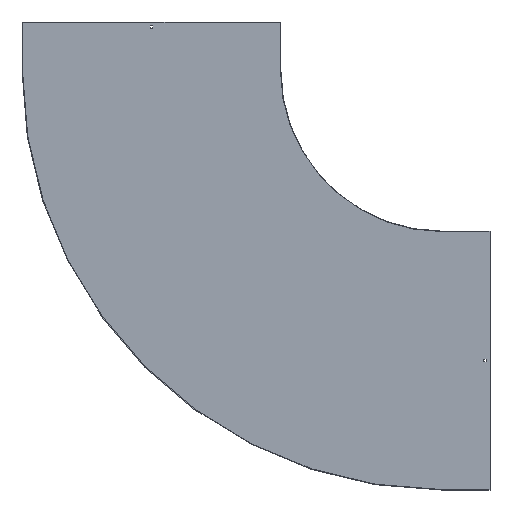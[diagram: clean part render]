
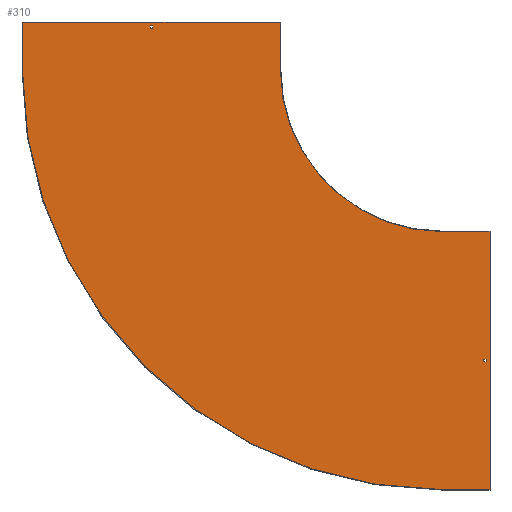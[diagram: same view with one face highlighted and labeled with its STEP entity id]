
A CAD part, front view. The second image highlights one B-rep face of the part: STEP entity #310.
In plain terms, the highlighted planar face has unit normal (0, -1, 0).
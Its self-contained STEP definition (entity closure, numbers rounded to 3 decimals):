
#1 = DIRECTION ( 'NONE',  ( 1., 0., 0. ) ) ;
#4 = VERTEX_POINT ( 'NONE', #264 ) ;
#10 = VECTOR ( 'NONE', #138, 1000. ) ;
#14 = CARTESIAN_POINT ( 'NONE',  ( 129., -1.5, -896.75 ) ) ;
#20 = CARTESIAN_POINT ( 'NONE',  ( 129., -1.5, -903.25 ) ) ;
#21 = LINE ( 'NONE', #411, #221 ) ;
#28 = VECTOR ( 'NONE', #618, 1000. ) ;
#36 = CARTESIAN_POINT ( 'NONE',  ( 0., -1.5, -903.25 ) ) ;
#37 = CARTESIAN_POINT ( 'NONE',  ( 0., -1.5, -500. ) ) ;
#49 = VERTEX_POINT ( 'NONE', #20 ) ;
#52 = VERTEX_POINT ( 'NONE', #326 ) ;
#68 = ORIENTED_EDGE ( 'NONE', *, *, #444, .F. ) ;
#85 = DIRECTION ( 'NONE',  ( 0., 1., 0. ) ) ;
#89 = CARTESIAN_POINT ( 'NONE',  ( -500., -1.5, 150. ) ) ;
#105 = VECTOR ( 'NONE', #839, 1000. ) ;
#111 = DIRECTION ( 'NONE',  ( -1., 0., 0. ) ) ;
#124 = DIRECTION ( 'NONE',  ( 1., 0., 0. ) ) ;
#129 = CARTESIAN_POINT ( 'NONE',  ( 150., -1.5, -498.5 ) ) ;
#135 = ORIENTED_EDGE ( 'NONE', *, *, #726, .T. ) ;
#138 = DIRECTION ( 'NONE',  ( 0., 0., -1. ) ) ;
#151 = LINE ( 'NONE', #646, #518 ) ;
#152 = VERTEX_POINT ( 'NONE', #467 ) ;
#158 = VERTEX_POINT ( 'NONE', #270 ) ;
#160 = EDGE_CURVE ( 'NONE', #175, #832, #820, .T. ) ;
#162 = LINE ( 'NONE', #89, #28 ) ;
#165 = DIRECTION ( 'NONE',  ( 0., 0., -1. ) ) ;
#169 = ORIENTED_EDGE ( 'NONE', *, *, #177, .F. ) ;
#171 = ORIENTED_EDGE ( 'NONE', *, *, #776, .F. ) ;
#172 = LINE ( 'NONE', #711, #191 ) ;
#175 = VERTEX_POINT ( 'NONE', #748 ) ;
#177 = EDGE_CURVE ( 'NONE', #674, #652, #151, .T. ) ;
#181 = CARTESIAN_POINT ( 'NONE',  ( 0., -1.5, 138. ) ) ;
#183 = ORIENTED_EDGE ( 'NONE', *, *, #766, .F. ) ;
#186 = ORIENTED_EDGE ( 'NONE', *, *, #788, .F. ) ;
#188 = EDGE_CURVE ( 'NONE', #755, #306, #568, .T. ) ;
#191 = VECTOR ( 'NONE', #437, 1000. ) ;
#192 = VECTOR ( 'NONE', #225, 1000. ) ;
#216 = DIRECTION ( 'NONE',  ( -1., 0., 0. ) ) ;
#217 = EDGE_LOOP ( 'NONE', ( #135, #660, #250, #828 ) ) ;
#220 = DIRECTION ( 'NONE',  ( 0., 0., -1. ) ) ;
#221 = VECTOR ( 'NONE', #681, 1000. ) ;
#225 = DIRECTION ( 'NONE',  ( 1., 0., 0. ) ) ;
#233 = CARTESIAN_POINT ( 'NONE',  ( 150., -1.5, -500. ) ) ;
#235 = FACE_OUTER_BOUND ( 'NONE', #236, .T. ) ;
#236 = EDGE_LOOP ( 'NONE', ( #408, #845, #432, #169, #68, #802, #549, #186 ) ) ;
#241 = EDGE_CURVE ( 'NONE', #832, #703, #339, .T. ) ;
#250 = ORIENTED_EDGE ( 'NONE', *, *, #656, .T. ) ;
#262 = EDGE_CURVE ( 'NONE', #152, #353, #381, .T. ) ;
#264 = CARTESIAN_POINT ( 'NONE',  ( -896.75, -1.5, 129. ) ) ;
#268 = VECTOR ( 'NONE', #847, 1000. ) ;
#270 = CARTESIAN_POINT ( 'NONE',  ( -500., -1.5, 150. ) ) ;
#276 = CARTESIAN_POINT ( 'NONE',  ( -1300., -1.5, 150. ) ) ;
#281 = CARTESIAN_POINT ( 'NONE',  ( -896.75, -1.5, 138. ) ) ;
#284 = AXIS2_PLACEMENT_3D ( 'NONE', #500, #771, #165 ) ;
#297 = PLANE ( 'NONE',  #284 ) ;
#306 = VERTEX_POINT ( 'NONE', #542 ) ;
#307 = VERTEX_POINT ( 'NONE', #281 ) ;
#310 = ADVANCED_FACE ( 'NONE', ( #844, #235, #819 ), #297, .T. ) ;
#311 = CARTESIAN_POINT ( 'NONE',  ( -903.25, -1.5, 0. ) ) ;
#323 = AXIS2_PLACEMENT_3D ( 'NONE', #342, #85, #668 ) ;
#326 = CARTESIAN_POINT ( 'NONE',  ( -1300., -1.5, 0. ) ) ;
#332 = AXIS2_PLACEMENT_3D ( 'NONE', #530, #611, #220 ) ;
#339 = LINE ( 'NONE', #810, #743 ) ;
#342 = CARTESIAN_POINT ( 'NONE',  ( 0., -1.5, 0. ) ) ;
#348 = LINE ( 'NONE', #751, #384 ) ;
#352 = CARTESIAN_POINT ( 'NONE',  ( -903.25, -1.5, 129. ) ) ;
#353 = VERTEX_POINT ( 'NONE', #557 ) ;
#357 = EDGE_CURVE ( 'NONE', #505, #49, #427, .T. ) ;
#359 = LINE ( 'NONE', #482, #520 ) ;
#361 = LINE ( 'NONE', #181, #498 ) ;
#365 = CARTESIAN_POINT ( 'NONE',  ( 129., -1.5, 0. ) ) ;
#369 = VECTOR ( 'NONE', #390, 1000. ) ;
#374 = LINE ( 'NONE', #836, #840 ) ;
#381 = LINE ( 'NONE', #730, #369 ) ;
#384 = VECTOR ( 'NONE', #216, 1000. ) ;
#390 = DIRECTION ( 'NONE',  ( 0., 0., 1. ) ) ;
#408 = ORIENTED_EDGE ( 'NONE', *, *, #459, .F. ) ;
#411 = CARTESIAN_POINT ( 'NONE',  ( -1300., -1.5, 0. ) ) ;
#413 = CARTESIAN_POINT ( 'NONE',  ( 150., -1.5, -1300. ) ) ;
#427 = LINE ( 'NONE', #365, #105 ) ;
#432 = ORIENTED_EDGE ( 'NONE', *, *, #700, .F. ) ;
#437 = DIRECTION ( 'NONE',  ( 1., 0., 0. ) ) ;
#444 = EDGE_CURVE ( 'NONE', #703, #674, #462, .T. ) ;
#459 = EDGE_CURVE ( 'NONE', #562, #158, #172, .T. ) ;
#462 = LINE ( 'NONE', #129, #10 ) ;
#464 = EDGE_CURVE ( 'NONE', #307, #4, #374, .T. ) ;
#467 = CARTESIAN_POINT ( 'NONE',  ( 138., -1.5, -903.25 ) ) ;
#482 = CARTESIAN_POINT ( 'NONE',  ( 0., -1.5, -896.75 ) ) ;
#498 = VECTOR ( 'NONE', #124, 1000. ) ;
#500 = CARTESIAN_POINT ( 'NONE',  ( 0., -1.5, 0. ) ) ;
#505 = VERTEX_POINT ( 'NONE', #14 ) ;
#518 = VECTOR ( 'NONE', #111, 1000. ) ;
#520 = VECTOR ( 'NONE', #559, 1000. ) ;
#530 = CARTESIAN_POINT ( 'NONE',  ( 0., -1.5, 0. ) ) ;
#542 = CARTESIAN_POINT ( 'NONE',  ( -903.25, -1.5, 138. ) ) ;
#549 = ORIENTED_EDGE ( 'NONE', *, *, #160, .F. ) ;
#557 = CARTESIAN_POINT ( 'NONE',  ( 138., -1.5, -896.75 ) ) ;
#558 = ORIENTED_EDGE ( 'NONE', *, *, #357, .F. ) ;
#559 = DIRECTION ( 'NONE',  ( -1., 0., 0. ) ) ;
#562 = VERTEX_POINT ( 'NONE', #276 ) ;
#568 = LINE ( 'NONE', #311, #268 ) ;
#578 = EDGE_LOOP ( 'NONE', ( #171, #622, #183, #558 ) ) ;
#611 = DIRECTION ( 'NONE',  ( 0., -1., 0. ) ) ;
#618 = DIRECTION ( 'NONE',  ( 0., 0., -1. ) ) ;
#622 = ORIENTED_EDGE ( 'NONE', *, *, #262, .F. ) ;
#624 = LINE ( 'NONE', #36, #192 ) ;
#644 = CIRCLE ( 'NONE', #323, 1300. ) ;
#646 = CARTESIAN_POINT ( 'NONE',  ( 150., -1.5, -1300. ) ) ;
#652 = VERTEX_POINT ( 'NONE', #676 ) ;
#656 = EDGE_CURVE ( 'NONE', #4, #755, #348, .T. ) ;
#660 = ORIENTED_EDGE ( 'NONE', *, *, #464, .T. ) ;
#668 = DIRECTION ( 'NONE',  ( 0., 0., -1. ) ) ;
#674 = VERTEX_POINT ( 'NONE', #413 ) ;
#676 = CARTESIAN_POINT ( 'NONE',  ( 0., -1.5, -1300. ) ) ;
#681 = DIRECTION ( 'NONE',  ( 0., 0., 1. ) ) ;
#697 = DIRECTION ( 'NONE',  ( 0., 0., -1. ) ) ;
#700 = EDGE_CURVE ( 'NONE', #652, #52, #644, .T. ) ;
#703 = VERTEX_POINT ( 'NONE', #233 ) ;
#708 = EDGE_CURVE ( 'NONE', #52, #562, #21, .T. ) ;
#711 = CARTESIAN_POINT ( 'NONE',  ( -1301.5, -1.5, 150. ) ) ;
#726 = EDGE_CURVE ( 'NONE', #306, #307, #361, .T. ) ;
#730 = CARTESIAN_POINT ( 'NONE',  ( 138., -1.5, 0. ) ) ;
#743 = VECTOR ( 'NONE', #1, 1000. ) ;
#748 = CARTESIAN_POINT ( 'NONE',  ( -500., -1.5, 0. ) ) ;
#751 = CARTESIAN_POINT ( 'NONE',  ( 0., -1.5, 129. ) ) ;
#755 = VERTEX_POINT ( 'NONE', #352 ) ;
#766 = EDGE_CURVE ( 'NONE', #49, #152, #624, .T. ) ;
#771 = DIRECTION ( 'NONE',  ( 0., -1., 0. ) ) ;
#776 = EDGE_CURVE ( 'NONE', #353, #505, #359, .T. ) ;
#788 = EDGE_CURVE ( 'NONE', #158, #175, #162, .T. ) ;
#802 = ORIENTED_EDGE ( 'NONE', *, *, #241, .F. ) ;
#810 = CARTESIAN_POINT ( 'NONE',  ( 0., -1.5, -500. ) ) ;
#819 = FACE_BOUND ( 'NONE', #217, .T. ) ;
#820 = CIRCLE ( 'NONE', #332, 500. ) ;
#828 = ORIENTED_EDGE ( 'NONE', *, *, #188, .T. ) ;
#832 = VERTEX_POINT ( 'NONE', #37 ) ;
#836 = CARTESIAN_POINT ( 'NONE',  ( -896.75, -1.5, 0. ) ) ;
#839 = DIRECTION ( 'NONE',  ( 0., 0., -1. ) ) ;
#840 = VECTOR ( 'NONE', #697, 1000. ) ;
#844 = FACE_BOUND ( 'NONE', #578, .T. ) ;
#845 = ORIENTED_EDGE ( 'NONE', *, *, #708, .F. ) ;
#847 = DIRECTION ( 'NONE',  ( 0., 0., 1. ) ) ;
